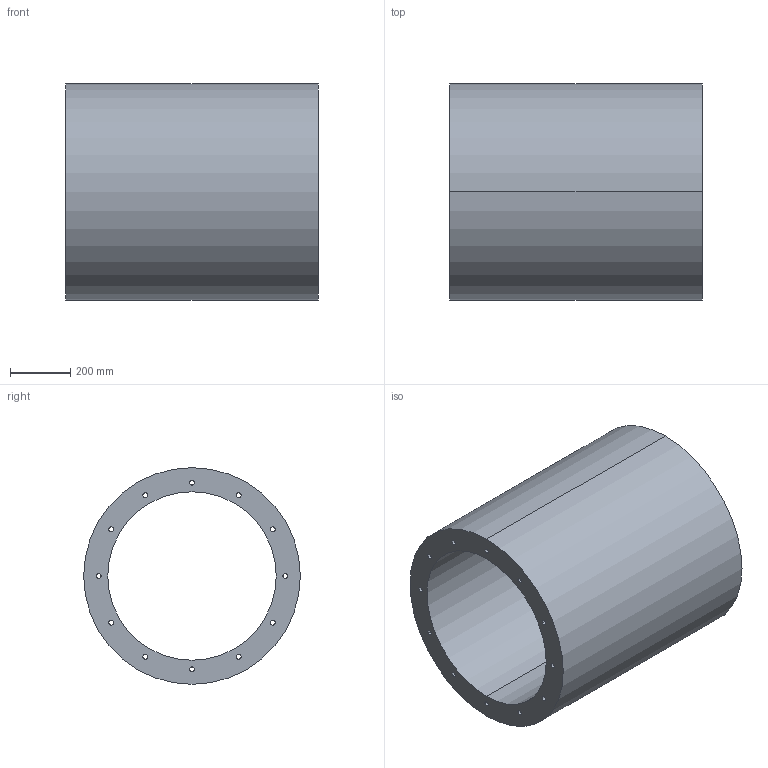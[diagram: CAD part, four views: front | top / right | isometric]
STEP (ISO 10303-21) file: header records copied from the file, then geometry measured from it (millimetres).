
FILE_DESCRIPTION(('STEP AP214'),'1');
FILE_NAME('accessory_5211811000.stp','2017-10-09T11:37:26',('TraceParts'),('TraceParts S.A.'),'Spatial InterOp 3D',' ',' ');
FILE_SCHEMA(('automotive_design'));
Length unit declared in the file: millimetre
Products named in the file (1): accessory_5211811000
Bounding box: 840 x 720 x 720 mm (x, y, z)
Volume: 133086912.6 mm3; surface area: 4201390.1 mm2
Topology: 1 solids, 1 shells, 30 faces, 84 edges, 56 vertices
Faces by surface type: cylinder 28, plane 2
Entity records: 1312 total; most frequent: DIRECTION 202, CARTESIAN_POINT 171, ORIENTED_EDGE 168, AXIS2_PLACEMENT_3D 87, EDGE_CURVE 84, EDGE_LOOP 56, VERTEX_POINT 56, CIRCLE 56
